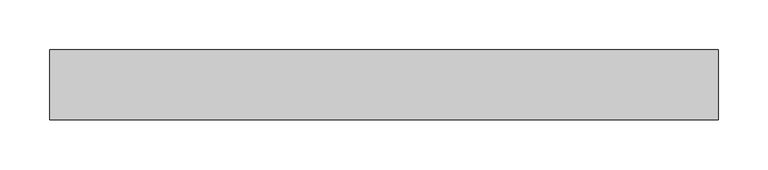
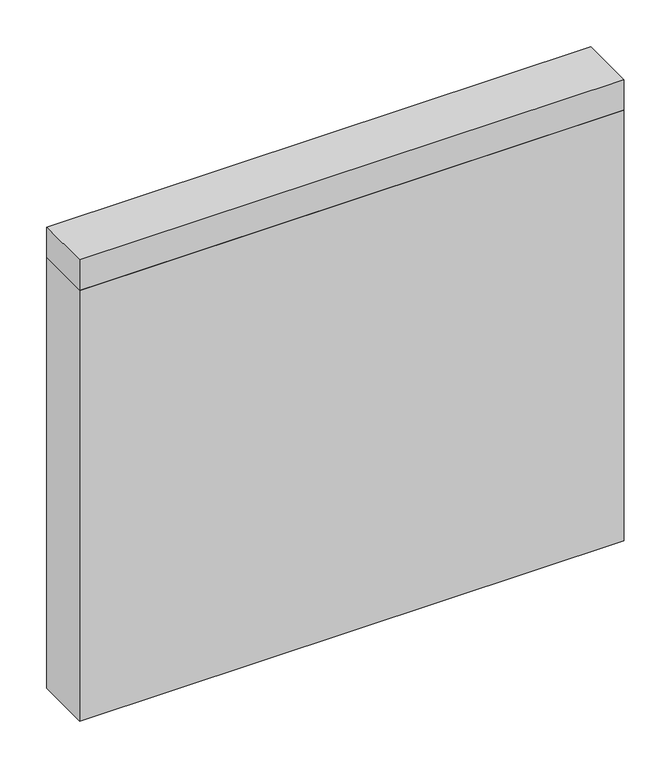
"""IFC4 building model written with IfcOpenShell, lengths in millimetres: plate geometry, 営_パーティションパネル_上部 : パーティションパネル_上部."""

from ifc_helpers import new_model, si_unit, frame, origin, origin_with_axes, place, context, project, spatial, polyline, outline, extrude, source, transform, mapped, element, save


def plate_f3b27fee(model_context):
    return source(origin(), model_context, "Body", "SweptSolid", [
        extrude(outline(polyline([(-334.9999998, -35.0), (-334.9999998, 35.0), (334.9999998, 35.0), (334.9999998, -35.0), (-334.9999998, -35.0)])), origin_with_axes(), (0.0, 0.0, 1.0), 560.0),
        extrude(outline(polyline([(-334.9999998, -35.0), (-334.9999998, 35.0), (334.9999998, 35.0), (334.9999998, -35.0), (-334.9999998, -35.0)])), frame((0.0, 0.0, 560.0), z_axis=(0.0, 0.0, 1.0), x_axis=(1.0, 0.0, 0.0)), (0.0, 0.0, 1.0), 40.0),
    ])


if __name__ == "__main__":
    model = new_model("IFC4")
    model_context = context("Model", 3, world=origin())
    ifc_project = project(units=[si_unit("LENGTHUNIT", "METRE", prefix="MILLI")], contexts=[model_context])
    site = spatial("IfcSite", under=ifc_project)
    building = spatial("IfcBuilding", under=site)
    placement = place(None, origin())
    plate_shape = plate_f3b27fee(model_context)
    element("IfcPlate", 1, ObjectType="営_パーティションパネル_上部 : パーティションパネル_上部", at=placement, inside=building, context=model_context, shape_type="MappedRepresentation", body=[
        mapped(plate_shape, transform((0.0, 0.0, 0.0), x_axis=(1.0, 0.0, 0.0), y_axis=(0.0, 1.0, 0.0), z_axis=(0.0, 0.0, 1.0))),
    ])
    save(model, "model.ifc")
